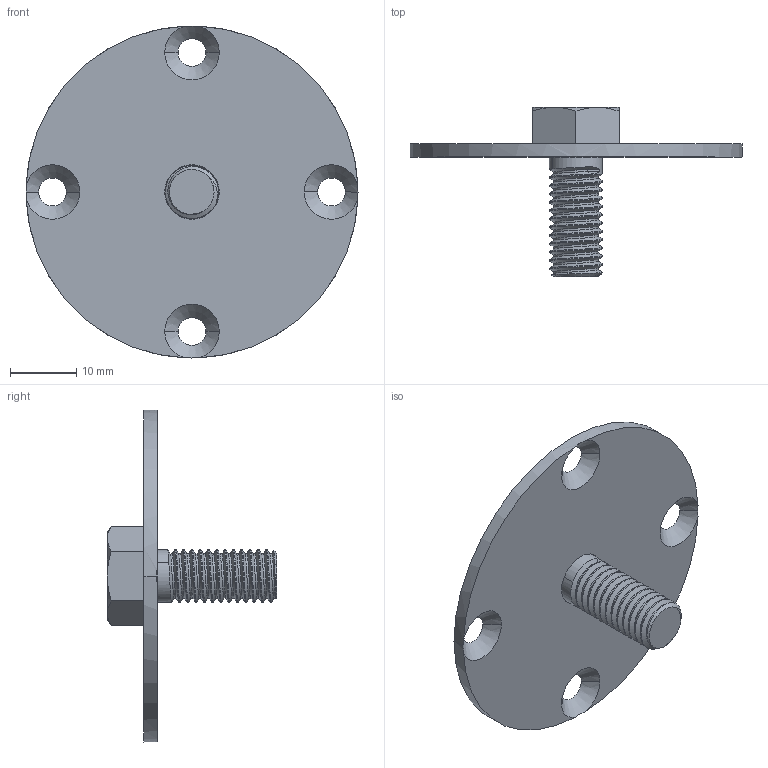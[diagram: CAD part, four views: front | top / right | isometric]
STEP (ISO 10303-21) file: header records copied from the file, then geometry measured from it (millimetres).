
FILE_DESCRIPTION (( 'STEP AP214' ), '1' );
FILE_NAME ('B135-JB.STEP', '2022-05-23T00:54:19', ( '' ), ( '' ), 'SwSTEP 2.0', 'SolidWorks 2019', '' );
FILE_SCHEMA (( 'AUTOMOTIVE_DESIGN' ));
Length unit declared in the file: millimetre
Products named in the file (3): JointPlate; 六角ボルトM8x20; B135-JB
Assembly tree (2 placements, depth 2):
  B135-JB
    JointPlate
    六角ボルトM8x20
Bounding box: 50 x 25.5 x 50 mm (x, y, z)
Volume: 5236.7 mm3; surface area: 5349 mm2
Topology: 2 solids, 2 shells, 66 faces, 182 edges, 117 vertices
Faces by surface type: cylinder 30, cone 17, plane 14, bspline 3, torus 2
Entity records: 4901 total; most frequent: CARTESIAN_POINT 3283, ORIENTED_EDGE 364, DIRECTION 282, EDGE_CURVE 182, VERTEX_POINT 117, AXIS2_PLACEMENT_3D 112, EDGE_LOOP 73, ADVANCED_FACE 66
